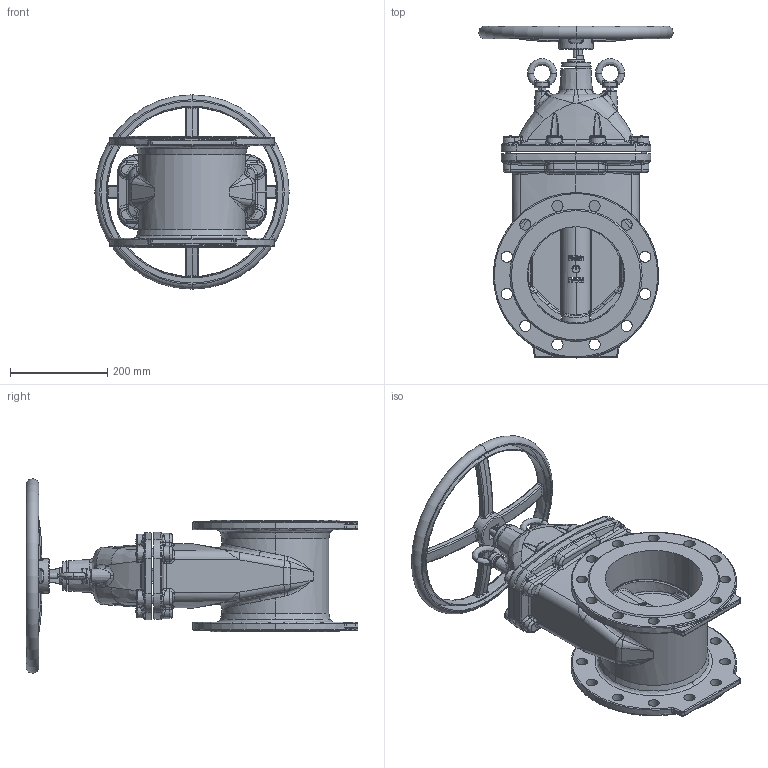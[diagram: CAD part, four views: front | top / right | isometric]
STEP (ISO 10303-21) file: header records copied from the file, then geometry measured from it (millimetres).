
FILE_DESCRIPTION (( 'STEP AP203' ), '1' );
FILE_NAME ('VOC4241C-00EP0200.STEP', '2021-11-17T15:49:30', ( '' ), ( '' ), 'SwSTEP 2.0', 'SolidWorks 2020', '' );
FILE_SCHEMA (( 'CONFIG_CONTROL_DESIGN' ));
Products named in the file (1): VOC4241C-00EP0200
Bounding box: 399.97 x 683 x 399.97 mm (x, y, z)
Surface area: 1140140.3 mm2 (no closed solid volume)
Topology: 0 solids, 33 shells, 1301 faces, 4545 edges, 3191 vertices
Faces by surface type: bspline 758, cylinder 267, plane 135, torus 70, cone 55, sphere 16
Entity records: 111368 total; most frequent: CARTESIAN_POINT 81324, ORIENTED_EDGE 7369, EDGE_CURVE 4477, DIRECTION 3836, VERTEX_POINT 3150, B_SPLINE_CURVE_WITH_KNOTS 2305, AXIS2_PLACEMENT_3D 1502, EDGE_LOOP 1391
